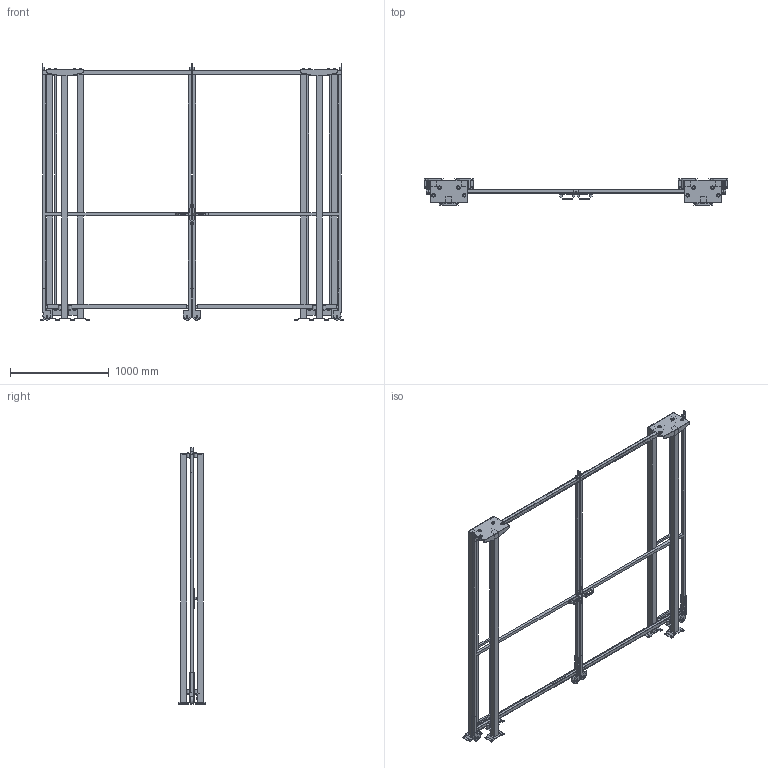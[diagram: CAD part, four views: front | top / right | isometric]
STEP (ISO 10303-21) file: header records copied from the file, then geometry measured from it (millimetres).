
FILE_DESCRIPTION(/* description */ (''),/* implementation_level */ '2;1');
FILE_NAME(/* name */ 'C:\SafeGuarding\ELABORATI\KLADKA2KR_2025-03-25-12-22-47.stp',/* time_stamp */ '2025-03-25T12:22:47+01:00',/* author */ ('admin'),/* organization */ (''),/* preprocessor_version */ 'ST-DEVELOPER v18.1',/* originating_system */ 'AutoCAD Mechanical',/* authorisation */ '');
FILE_SCHEMA (('AUTOMOTIVE_DESIGN { 1 0 10303 214 3 1 1 }'));
Length unit declared in the file: millimetre
Products named in the file (4): Product; VFPA.REPE30.15002400; VFPA.REPE2002502400; P_VFMA.V260SDU.2520
Assembly tree (10 placements, depth 2):
  Product
    VFPA.REPE30.15002400  x2
    P_VFMA.V260SDU.2520  x6
    VFPA.REPE2002502400  x2
Bounding box: 3071.38 x 264 x 2590.02 mm (x, y, z)
Volume: 81532353.5 mm3; surface area: 11142047.5 mm2
Topology: 82 solids, 104 shells, 822 faces, 2645 edges, 2557 vertices
Faces by surface type: plane 746, cylinder 76
Full cylindrical faces by diameter (mm): 9 x8, 11 x24, 13 x8, 14 x4, 30 x12, 36 x16, 80 x4
Entity records: 22020 total; most frequent: CARTESIAN_POINT 4625, DIRECTION 3353, ORIENTED_EDGE 3156, EDGE_CURVE 1676, LINE 1551, VECTOR 1551, VERTEX_POINT 1196, AXIS2_PLACEMENT_3D 901
